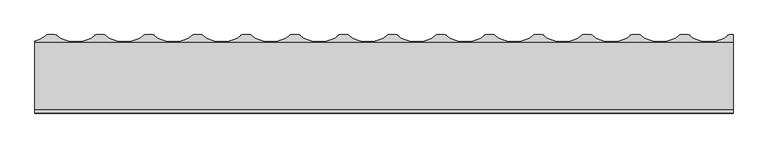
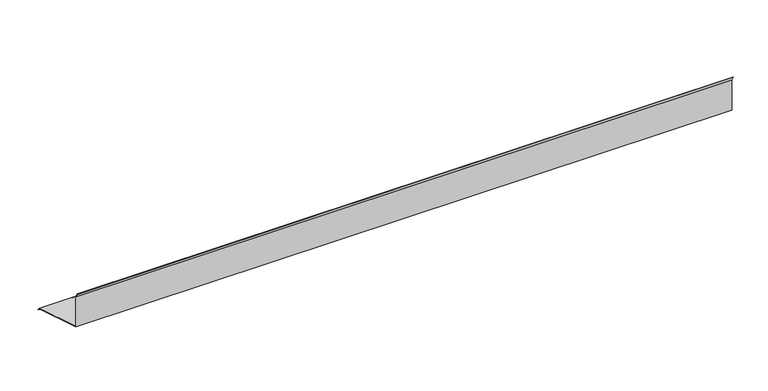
"""IFC4 building model written with IfcOpenShell, lengths in millimetres: proxy geometry, H20.F20.003-E-REMATES TEJA-Troquelado a Pared : Troquelado a Pared Teja."""

from ifc_helpers import new_model, si_unit, point, frame, origin, place, context, project, spatial, ellipse_curve, trimmed, source, transform, mapped, element, save
from ifc_brep_helpers import plane_surface, extruded_surface, advanced_brep


def generic_models_a4d5a3c6(model_context):
    return source(origin(), model_context, "Body", "AdvancedBrep", [
        advanced_brep(
        [(2500.0, 0.0, 0.0), (2500.0, 0.0, 115.0), (2500.0, -10.0, 132.3205081), (2500.0, -11.5588457, 131.4205081), (2500.0, -1.6, 114.1712813), (2500.0, -1.6, -1.1839377), (2500.0, 229.5451993, -71.852117), (2500.0, 256.3431683, -107.3544315), (2500.0, 257.6202057, -106.3904941), (2500.0, 230.5094655, -70.473816), (110.0, 230.5094655, -70.473816), (110.0, 0.0, 0.0), (2487.8721739, 257.6202057, -106.3904941), (2480.9580237, 255.2613563, -103.2654582), (2352.1819763, 255.2613563, -103.2654582), (2345.2678261, 257.6202057, -106.3904941), (2321.2121739, 257.6202057, -106.3904941), (2314.2980237, 255.2613563, -103.2654582), (2185.5219763, 255.2613563, -103.2654582), (2178.6078261, 257.6202057, -106.3904941), (2154.5521739, 257.6202057, -106.3904941), (2147.6380237, 255.2613563, -103.2654582), (2018.8619763, 255.2613563, -103.2654582), (2011.9478261, 257.6202057, -106.3904941), (1987.8921739, 257.6202057, -106.3904941), (1980.9780237, 255.2613563, -103.2654582), (1852.2019763, 255.2613563, -103.2654582), (1845.2878261, 257.6202057, -106.3904941), (1821.2321739, 257.6202057, -106.3904941), (1814.3180237, 255.2613563, -103.2654582), (1685.5419763, 255.2613563, -103.2654582), (1678.6278261, 257.6202057, -106.3904941), (1654.5721739, 257.6202057, -106.3904941), (1647.6580237, 255.2613563, -103.2654582), (1518.8819763, 255.2613563, -103.2654582), (1511.9678261, 257.6202057, -106.3904941), (1487.9121739, 257.6202057, -106.3904941), (1480.9980237, 255.2613563, -103.2654582), (1352.2219763, 255.2613563, -103.2654582), (1345.3078261, 257.6202057, -106.3904941), (1321.2521739, 257.6202057, -106.3904941), (1314.3380237, 255.2613563, -103.2654582), (1185.5619763, 255.2613563, -103.2654582), (1178.6478261, 257.6202057, -106.3904941), (1154.5921739, 257.6202057, -106.3904941), (1147.6780237, 255.2613563, -103.2654582), (1018.9019763, 255.2613563, -103.2654582), (1011.9878261, 257.6202057, -106.3904941), (987.9321739, 257.6202057, -106.3904941), (981.0180237, 255.2613563, -103.2654582), (852.2419763, 255.2613563, -103.2654582), (845.3278261, 257.6202057, -106.3904941), (821.2721739, 257.6202057, -106.3904941), (814.3580237, 255.2613563, -103.2654582), (685.5819763, 255.2613563, -103.2654582), (678.6678261, 257.6202057, -106.3904941), (654.6121739, 257.6202057, -106.3904941), (647.6980237, 255.2613563, -103.2654582), (518.9219763, 255.2613563, -103.2654582), (512.0078261, 257.6202057, -106.3904941), (487.9521739, 257.6202057, -106.3904941), (481.0380237, 255.2613563, -103.2654582), (352.2619763, 255.2613563, -103.2654582), (345.3478261, 257.6202057, -106.3904941), (321.2921739, 257.6202057, -106.3904941), (314.3780237, 255.2613563, -103.2654582), (185.6019763, 255.2613563, -103.2654582), (178.6878261, 257.6202057, -106.3904941), (154.6321739, 257.6202057, -106.3904941), (147.7180237, 255.2613563, -103.2654582), (110.0, 236.2239462, -78.0444379), (2487.8721739, 256.3431683, -107.3544315), (178.6878261, 256.3431683, -107.3544315), (154.6321739, 256.3431683, -107.3544315), (345.3478261, 256.3431683, -107.3544315), (321.2921739, 256.3431683, -107.3544315), (512.0078261, 256.3431683, -107.3544315), (487.9521739, 256.3431683, -107.3544315), (678.6678261, 256.3431683, -107.3544315), (654.6121739, 256.3431683, -107.3544315), (845.3278261, 256.3431683, -107.3544315), (821.2721739, 256.3431683, -107.3544315), (1011.9878261, 256.3431683, -107.3544315), (987.9321739, 256.3431683, -107.3544315), (1178.6478261, 256.3431683, -107.3544315), (1154.5921739, 256.3431683, -107.3544315), (1345.3078261, 256.3431683, -107.3544315), (1321.2521739, 256.3431683, -107.3544315), (1511.9678261, 256.3431683, -107.3544315), (1487.9121739, 256.3431683, -107.3544315), (1678.6278261, 256.3431683, -107.3544315), (1654.5721739, 256.3431683, -107.3544315), (1845.2878261, 256.3431683, -107.3544315), (1821.2321739, 256.3431683, -107.3544315), (2011.9478261, 256.3431683, -107.3544315), (1987.8921739, 256.3431683, -107.3544315), (2178.6078261, 256.3431683, -107.3544315), (2154.5521739, 256.3431683, -107.3544315), (2345.2678261, 256.3431683, -107.3544315), (2321.2121739, 256.3431683, -107.3544315), (110.0, 229.5451993, -71.852117), (110.0, 234.9469088, -79.0083754), (147.7180237, 253.9843188, -104.2293957), (185.6019763, 253.9843188, -104.2293957), (314.3780237, 253.9843188, -104.2293957), (352.2619763, 253.9843188, -104.2293957), (481.0380237, 253.9843188, -104.2293957), (518.9219763, 253.9843188, -104.2293957), (647.6980237, 253.9843188, -104.2293957), (685.5819763, 253.9843188, -104.2293957), (814.3580237, 253.9843188, -104.2293957), (852.2419763, 253.9843188, -104.2293957), (981.0180237, 253.9843188, -104.2293957), (1018.9019763, 253.9843188, -104.2293957), (1147.6780237, 253.9843188, -104.2293957), (1185.5619763, 253.9843188, -104.2293957), (1314.3380237, 253.9843188, -104.2293957), (1352.2219763, 253.9843188, -104.2293957), (1480.9980237, 253.9843188, -104.2293957), (1518.8819763, 253.9843188, -104.2293957), (1647.6580237, 253.9843188, -104.2293957), (1685.5419763, 253.9843188, -104.2293957), (1814.3180237, 253.9843188, -104.2293957), (1852.2019763, 253.9843188, -104.2293957), (1980.9780237, 253.9843188, -104.2293957), (2018.8619763, 253.9843188, -104.2293957), (2147.6380237, 253.9843188, -104.2293957), (2185.5219763, 253.9843188, -104.2293957), (2314.2980237, 253.9843188, -104.2293957), (2352.1819763, 253.9843188, -104.2293957), (2480.9580237, 253.9843188, -104.2293957), (110.0, -1.6, -1.1839377), (110.0, -1.6, 114.1712813), (110.0, -11.5588457, 131.4205081), (110.0, -10.0, 132.3205081), (110.0, 0.0, 115.0)],
        [
            (0, 1),
            (1, 2),
            (2, 3),
            (3, 4),
            (4, 5),
            (5, 6),
            (6, 7),
            (7, 8),
            (8, 9),
            (9, 0),
            (9, 10),
            (10, 11),
            (11, 0),
            (8, 12),
            (12, 13, ellipse_curve(frame((2487.8721739, 252.8737404, -100.1023122), z_axis=(0.0, 0.7981484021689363, 0.6024608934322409), x_axis=(1.0, 0.0, 0.0)), 8.0, 7.878462)),
            (13, 14, ellipse_curve(frame((2416.57, 277.496029, -132.7222557), z_axis=(0.0, -0.7981484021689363, -0.6024608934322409), x_axis=(1.0, 0.0, 0.0)), 74.5, 73.3681776)),
            (14, 15, ellipse_curve(frame((2345.2678261, 252.8737404, -100.1023122), z_axis=(0.0, 0.7981484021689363, 0.6024608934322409), x_axis=(1.0, 0.0, 0.0)), 8.0, 7.878462)),
            (15, 16),
            (16, 17, ellipse_curve(frame((2321.2121739, 252.8737404, -100.1023122), z_axis=(0.0, 0.7981484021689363, 0.6024608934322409), x_axis=(1.0, 0.0, 0.0)), 8.0, 7.878462)),
            (17, 18, ellipse_curve(frame((2249.91, 277.496029, -132.7222557), z_axis=(0.0, -0.7981484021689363, -0.6024608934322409), x_axis=(1.0, 0.0, 0.0)), 74.5, 73.3681776)),
            (18, 19, ellipse_curve(frame((2178.6078261, 252.8737404, -100.1023122), z_axis=(0.0, 0.7981484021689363, 0.6024608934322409), x_axis=(1.0, 0.0, 0.0)), 8.0, 7.878462)),
            (19, 20),
            (20, 21, ellipse_curve(frame((2154.5521739, 252.8737404, -100.1023122), z_axis=(0.0, 0.7981484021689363, 0.6024608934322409), x_axis=(1.0, 0.0, 0.0)), 8.0, 7.878462)),
            (21, 22, ellipse_curve(frame((2083.25, 277.496029, -132.7222557), z_axis=(0.0, -0.7981484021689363, -0.6024608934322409), x_axis=(1.0, 0.0, 0.0)), 74.5, 73.3681776)),
            (22, 23, ellipse_curve(frame((2011.9478261, 252.8737404, -100.1023122), z_axis=(0.0, 0.7981484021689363, 0.6024608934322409), x_axis=(1.0, 0.0, 0.0)), 8.0, 7.878462)),
            (23, 24),
            (24, 25, ellipse_curve(frame((1987.8921739, 252.8737404, -100.1023122), z_axis=(0.0, 0.7981484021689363, 0.6024608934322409), x_axis=(1.0, 0.0, 0.0)), 8.0, 7.878462)),
            (25, 26, ellipse_curve(frame((1916.59, 277.496029, -132.7222557), z_axis=(0.0, -0.7981484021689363, -0.6024608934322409), x_axis=(1.0, 0.0, 0.0)), 74.5, 73.3681776)),
            (26, 27, ellipse_curve(frame((1845.2878261, 252.8737404, -100.1023122), z_axis=(0.0, 0.7981484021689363, 0.6024608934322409), x_axis=(1.0, 0.0, 0.0)), 8.0, 7.878462)),
            (27, 28),
            (28, 29, ellipse_curve(frame((1821.2321739, 252.8737404, -100.1023122), z_axis=(0.0, 0.7981484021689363, 0.6024608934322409), x_axis=(1.0, 0.0, 0.0)), 8.0, 7.878462)),
            (29, 30, ellipse_curve(frame((1749.93, 277.496029, -132.7222557), z_axis=(0.0, -0.7981484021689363, -0.6024608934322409), x_axis=(1.0, 0.0, 0.0)), 74.5, 73.3681776)),
            (30, 31, ellipse_curve(frame((1678.6278261, 252.8737404, -100.1023122), z_axis=(0.0, 0.7981484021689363, 0.6024608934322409), x_axis=(1.0, 0.0, 0.0)), 8.0, 7.878462)),
            (31, 32),
            (32, 33, ellipse_curve(frame((1654.5721739, 252.8737404, -100.1023122), z_axis=(0.0, 0.7981484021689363, 0.6024608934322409), x_axis=(1.0, 0.0, 0.0)), 8.0, 7.878462)),
            (33, 34, ellipse_curve(frame((1583.27, 277.496029, -132.7222557), z_axis=(0.0, -0.7981484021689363, -0.6024608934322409), x_axis=(1.0, 0.0, 0.0)), 74.5, 73.3681776)),
            (34, 35, ellipse_curve(frame((1511.9678261, 252.8737404, -100.1023122), z_axis=(0.0, 0.7981484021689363, 0.6024608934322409), x_axis=(1.0, 0.0, 0.0)), 8.0, 7.878462)),
            (35, 36),
            (36, 37, ellipse_curve(frame((1487.9121739, 252.8737404, -100.1023122), z_axis=(0.0, 0.7981484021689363, 0.6024608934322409), x_axis=(1.0, 0.0, 0.0)), 8.0, 7.878462)),
            (37, 38, ellipse_curve(frame((1416.61, 277.496029, -132.7222557), z_axis=(0.0, -0.7981484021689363, -0.6024608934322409), x_axis=(1.0, 0.0, 0.0)), 74.5, 73.3681776)),
            (38, 39, ellipse_curve(frame((1345.3078261, 252.8737404, -100.1023122), z_axis=(0.0, 0.7981484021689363, 0.6024608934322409), x_axis=(1.0, 0.0, 0.0)), 8.0, 7.878462)),
            (39, 40),
            (40, 41, ellipse_curve(frame((1321.2521739, 252.8737404, -100.1023122), z_axis=(0.0, 0.7981484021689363, 0.6024608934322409), x_axis=(1.0, 0.0, 0.0)), 8.0, 7.878462)),
            (41, 42, ellipse_curve(frame((1249.95, 277.496029, -132.7222557), z_axis=(0.0, -0.7981484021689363, -0.6024608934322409), x_axis=(1.0, 0.0, 0.0)), 74.5, 73.3681776)),
            (42, 43, ellipse_curve(frame((1178.6478261, 252.8737404, -100.1023122), z_axis=(0.0, 0.7981484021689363, 0.6024608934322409), x_axis=(1.0, 0.0, 0.0)), 8.0, 7.878462)),
            (43, 44),
            (44, 45, ellipse_curve(frame((1154.5921739, 252.8737404, -100.1023122), z_axis=(0.0, 0.7981484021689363, 0.6024608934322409), x_axis=(1.0, 0.0, 0.0)), 8.0, 7.878462)),
            (45, 46, ellipse_curve(frame((1083.29, 277.496029, -132.7222557), z_axis=(0.0, -0.7981484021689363, -0.6024608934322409), x_axis=(1.0, 0.0, 0.0)), 74.5, 73.3681776)),
            (46, 47, ellipse_curve(frame((1011.9878261, 252.8737404, -100.1023122), z_axis=(0.0, 0.7981484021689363, 0.6024608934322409), x_axis=(1.0, 0.0, 0.0)), 8.0, 7.878462)),
            (47, 48),
            (48, 49, ellipse_curve(frame((987.9321739, 252.8737404, -100.1023122), z_axis=(0.0, 0.7981484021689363, 0.6024608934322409), x_axis=(1.0, 0.0, 0.0)), 8.0, 7.878462)),
            (49, 50, ellipse_curve(frame((916.63, 277.496029, -132.7222557), z_axis=(0.0, -0.7981484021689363, -0.6024608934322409), x_axis=(1.0, 0.0, 0.0)), 74.5, 73.3681776)),
            (50, 51, ellipse_curve(frame((845.3278261, 252.8737404, -100.1023122), z_axis=(0.0, 0.7981484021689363, 0.6024608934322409), x_axis=(1.0, 0.0, 0.0)), 8.0, 7.878462)),
            (51, 52),
            (52, 53, ellipse_curve(frame((821.2721739, 252.8737404, -100.1023122), z_axis=(0.0, 0.7981484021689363, 0.6024608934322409), x_axis=(1.0, 0.0, 0.0)), 8.0, 7.878462)),
            (53, 54, ellipse_curve(frame((749.97, 277.496029, -132.7222557), z_axis=(0.0, -0.7981484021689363, -0.6024608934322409), x_axis=(1.0, 0.0, 0.0)), 74.5, 73.3681776)),
            (54, 55, ellipse_curve(frame((678.6678261, 252.8737404, -100.1023122), z_axis=(0.0, 0.7981484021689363, 0.6024608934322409), x_axis=(1.0, 0.0, 0.0)), 8.0, 7.878462)),
            (55, 56),
            (56, 57, ellipse_curve(frame((654.6121739, 252.8737404, -100.1023122), z_axis=(0.0, 0.7981484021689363, 0.6024608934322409), x_axis=(1.0, 0.0, 0.0)), 8.0, 7.878462)),
            (57, 58, ellipse_curve(frame((583.31, 277.496029, -132.7222557), z_axis=(0.0, -0.7981484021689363, -0.6024608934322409), x_axis=(1.0, 0.0, 0.0)), 74.5, 73.3681776)),
            (58, 59, ellipse_curve(frame((512.0078261, 252.8737404, -100.1023122), z_axis=(0.0, 0.7981484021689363, 0.6024608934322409), x_axis=(1.0, 0.0, 0.0)), 8.0, 7.878462)),
            (59, 60),
            (60, 61, ellipse_curve(frame((487.9521739, 252.8737404, -100.1023122), z_axis=(0.0, 0.7981484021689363, 0.6024608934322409), x_axis=(1.0, 0.0, 0.0)), 8.0, 7.878462)),
            (61, 62, ellipse_curve(frame((416.65, 277.496029, -132.7222557), z_axis=(0.0, -0.7981484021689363, -0.6024608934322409), x_axis=(1.0, 0.0, 0.0)), 74.5, 73.3681776)),
            (62, 63, ellipse_curve(frame((345.3478261, 252.8737404, -100.1023122), z_axis=(0.0, 0.7981484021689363, 0.6024608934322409), x_axis=(1.0, 0.0, 0.0)), 8.0, 7.878462)),
            (63, 64),
            (64, 65, ellipse_curve(frame((321.2921739, 252.8737404, -100.1023122), z_axis=(0.0, 0.7981484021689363, 0.6024608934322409), x_axis=(1.0, 0.0, 0.0)), 8.0, 7.878462)),
            (65, 66, ellipse_curve(frame((249.99, 277.496029, -132.7222557), z_axis=(0.0, -0.7981484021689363, -0.6024608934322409), x_axis=(1.0, 0.0, 0.0)), 74.5, 73.3681776)),
            (66, 67, ellipse_curve(frame((178.6878261, 252.8737404, -100.1023122), z_axis=(0.0, 0.7981484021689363, 0.6024608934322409), x_axis=(1.0, 0.0, 0.0)), 8.0, 7.878462)),
            (67, 68),
            (68, 69, ellipse_curve(frame((154.6321739, 252.8737404, -100.1023122), z_axis=(0.0, 0.7981484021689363, 0.6024608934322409), x_axis=(1.0, 0.0, 0.0)), 8.0, 7.878462)),
            (69, 70, ellipse_curve(frame((83.33, 277.496029, -132.7222557), z_axis=(0.0, -0.7981484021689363, -0.6024608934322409), x_axis=(1.0, 0.0, 0.0)), 74.5, 73.3681776)),
            (70, 10),
            (7, 71),
            (71, 12),
            (67, 72),
            (72, 73),
            (73, 68),
            (63, 74),
            (74, 75),
            (75, 64),
            (59, 76),
            (76, 77),
            (77, 60),
            (55, 78),
            (78, 79),
            (79, 56),
            (51, 80),
            (80, 81),
            (81, 52),
            (47, 82),
            (82, 83),
            (83, 48),
            (43, 84),
            (84, 85),
            (85, 44),
            (39, 86),
            (86, 87),
            (87, 40),
            (35, 88),
            (88, 89),
            (89, 36),
            (31, 90),
            (90, 91),
            (91, 32),
            (27, 92),
            (92, 93),
            (93, 28),
            (23, 94),
            (94, 95),
            (95, 24),
            (19, 96),
            (96, 97),
            (97, 20),
            (15, 98),
            (98, 99),
            (99, 16),
            (6, 100),
            (100, 101),
            (101, 102, ellipse_curve(frame((83.33, 276.2189916, -133.6861931), z_axis=(0.0, 0.7981484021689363, 0.6024608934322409), x_axis=(1.0, 0.0, 0.0)), 74.5, 73.3681776)),
            (102, 73, ellipse_curve(frame((154.6321739, 251.596703, -101.0662496), z_axis=(0.0, -0.7981484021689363, -0.6024608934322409), x_axis=(1.0, 0.0, 0.0)), 8.0, 7.878462)),
            (72, 103, ellipse_curve(frame((178.6878261, 251.596703, -101.0662496), z_axis=(0.0, -0.7981484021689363, -0.6024608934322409), x_axis=(1.0, 0.0, 0.0)), 8.0, 7.878462)),
            (103, 104, ellipse_curve(frame((249.99, 276.2189916, -133.6861931), z_axis=(0.0, 0.7981484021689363, 0.6024608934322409), x_axis=(1.0, 0.0, 0.0)), 74.5, 73.3681776)),
            (104, 75, ellipse_curve(frame((321.2921739, 251.596703, -101.0662496), z_axis=(0.0, -0.7981484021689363, -0.6024608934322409), x_axis=(1.0, 0.0, 0.0)), 8.0, 7.878462)),
            (74, 105, ellipse_curve(frame((345.3478261, 251.596703, -101.0662496), z_axis=(0.0, -0.7981484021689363, -0.6024608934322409), x_axis=(1.0, 0.0, 0.0)), 8.0, 7.878462)),
            (105, 106, ellipse_curve(frame((416.65, 276.2189916, -133.6861931), z_axis=(0.0, 0.7981484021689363, 0.6024608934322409), x_axis=(1.0, 0.0, 0.0)), 74.5, 73.3681776)),
            (106, 77, ellipse_curve(frame((487.9521739, 251.596703, -101.0662496), z_axis=(0.0, -0.7981484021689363, -0.6024608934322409), x_axis=(1.0, 0.0, 0.0)), 8.0, 7.878462)),
            (76, 107, ellipse_curve(frame((512.0078261, 251.596703, -101.0662496), z_axis=(0.0, -0.7981484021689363, -0.6024608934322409), x_axis=(1.0, 0.0, 0.0)), 8.0, 7.878462)),
            (107, 108, ellipse_curve(frame((583.31, 276.2189916, -133.6861931), z_axis=(0.0, 0.7981484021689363, 0.6024608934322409), x_axis=(1.0, 0.0, 0.0)), 74.5, 73.3681776)),
            (108, 79, ellipse_curve(frame((654.6121739, 251.596703, -101.0662496), z_axis=(0.0, -0.7981484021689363, -0.6024608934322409), x_axis=(1.0, 0.0, 0.0)), 8.0, 7.878462)),
            (78, 109, ellipse_curve(frame((678.6678261, 251.596703, -101.0662496), z_axis=(0.0, -0.7981484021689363, -0.6024608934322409), x_axis=(1.0, 0.0, 0.0)), 8.0, 7.878462)),
            (109, 110, ellipse_curve(frame((749.97, 276.2189916, -133.6861931), z_axis=(0.0, 0.7981484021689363, 0.6024608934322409), x_axis=(1.0, 0.0, 0.0)), 74.5, 73.3681776)),
            (110, 81, ellipse_curve(frame((821.2721739, 251.596703, -101.0662496), z_axis=(0.0, -0.7981484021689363, -0.6024608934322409), x_axis=(1.0, 0.0, 0.0)), 8.0, 7.878462)),
            (80, 111, ellipse_curve(frame((845.3278261, 251.596703, -101.0662496), z_axis=(0.0, -0.7981484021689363, -0.6024608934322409), x_axis=(1.0, 0.0, 0.0)), 8.0, 7.878462)),
            (111, 112, ellipse_curve(frame((916.63, 276.2189916, -133.6861931), z_axis=(0.0, 0.7981484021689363, 0.6024608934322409), x_axis=(1.0, 0.0, 0.0)), 74.5, 73.3681776)),
            (112, 83, ellipse_curve(frame((987.9321739, 251.596703, -101.0662496), z_axis=(0.0, -0.7981484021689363, -0.6024608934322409), x_axis=(1.0, 0.0, 0.0)), 8.0, 7.878462)),
            (82, 113, ellipse_curve(frame((1011.9878261, 251.596703, -101.0662496), z_axis=(0.0, -0.7981484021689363, -0.6024608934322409), x_axis=(1.0, 0.0, 0.0)), 8.0, 7.878462)),
            (113, 114, ellipse_curve(frame((1083.29, 276.2189916, -133.6861931), z_axis=(0.0, 0.7981484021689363, 0.6024608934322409), x_axis=(1.0, 0.0, 0.0)), 74.5, 73.3681776)),
            (114, 85, ellipse_curve(frame((1154.5921739, 251.596703, -101.0662496), z_axis=(0.0, -0.7981484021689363, -0.6024608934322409), x_axis=(1.0, 0.0, 0.0)), 8.0, 7.878462)),
            (84, 115, ellipse_curve(frame((1178.6478261, 251.596703, -101.0662496), z_axis=(0.0, -0.7981484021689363, -0.6024608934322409), x_axis=(1.0, 0.0, 0.0)), 8.0, 7.878462)),
            (115, 116, ellipse_curve(frame((1249.95, 276.2189916, -133.6861931), z_axis=(0.0, 0.7981484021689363, 0.6024608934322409), x_axis=(1.0, 0.0, 0.0)), 74.5, 73.3681776)),
            (116, 87, ellipse_curve(frame((1321.2521739, 251.596703, -101.0662496), z_axis=(0.0, -0.7981484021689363, -0.6024608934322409), x_axis=(1.0, 0.0, 0.0)), 8.0, 7.878462)),
            (86, 117, ellipse_curve(frame((1345.3078261, 251.596703, -101.0662496), z_axis=(0.0, -0.7981484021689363, -0.6024608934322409), x_axis=(1.0, 0.0, 0.0)), 8.0, 7.878462)),
            (117, 118, ellipse_curve(frame((1416.61, 276.2189916, -133.6861931), z_axis=(0.0, 0.7981484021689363, 0.6024608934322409), x_axis=(1.0, 0.0, 0.0)), 74.5, 73.3681776)),
            (118, 89, ellipse_curve(frame((1487.9121739, 251.596703, -101.0662496), z_axis=(0.0, -0.7981484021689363, -0.6024608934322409), x_axis=(1.0, 0.0, 0.0)), 8.0, 7.878462)),
            (88, 119, ellipse_curve(frame((1511.9678261, 251.596703, -101.0662496), z_axis=(0.0, -0.7981484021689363, -0.6024608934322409), x_axis=(1.0, 0.0, 0.0)), 8.0, 7.878462)),
            (119, 120, ellipse_curve(frame((1583.27, 276.2189916, -133.6861931), z_axis=(0.0, 0.7981484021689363, 0.6024608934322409), x_axis=(1.0, 0.0, 0.0)), 74.5, 73.3681776)),
            (120, 91, ellipse_curve(frame((1654.5721739, 251.596703, -101.0662496), z_axis=(0.0, -0.7981484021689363, -0.6024608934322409), x_axis=(1.0, 0.0, 0.0)), 8.0, 7.878462)),
            (90, 121, ellipse_curve(frame((1678.6278261, 251.596703, -101.0662496), z_axis=(0.0, -0.7981484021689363, -0.6024608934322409), x_axis=(1.0, 0.0, 0.0)), 8.0, 7.878462)),
            (121, 122, ellipse_curve(frame((1749.93, 276.2189916, -133.6861931), z_axis=(0.0, 0.7981484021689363, 0.6024608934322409), x_axis=(1.0, 0.0, 0.0)), 74.5, 73.3681776)),
            (122, 93, ellipse_curve(frame((1821.2321739, 251.596703, -101.0662496), z_axis=(0.0, -0.7981484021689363, -0.6024608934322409), x_axis=(1.0, 0.0, 0.0)), 8.0, 7.878462)),
            (92, 123, ellipse_curve(frame((1845.2878261, 251.596703, -101.0662496), z_axis=(0.0, -0.7981484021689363, -0.6024608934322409), x_axis=(1.0, 0.0, 0.0)), 8.0, 7.878462)),
            (123, 124, ellipse_curve(frame((1916.59, 276.2189916, -133.6861931), z_axis=(0.0, 0.7981484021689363, 0.6024608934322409), x_axis=(1.0, 0.0, 0.0)), 74.5, 73.3681776)),
            (124, 95, ellipse_curve(frame((1987.8921739, 251.596703, -101.0662496), z_axis=(0.0, -0.7981484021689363, -0.6024608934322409), x_axis=(1.0, 0.0, 0.0)), 8.0, 7.878462)),
            (94, 125, ellipse_curve(frame((2011.9478261, 251.596703, -101.0662496), z_axis=(0.0, -0.7981484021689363, -0.6024608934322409), x_axis=(1.0, 0.0, 0.0)), 8.0, 7.878462)),
            (125, 126, ellipse_curve(frame((2083.25, 276.2189916, -133.6861931), z_axis=(0.0, 0.7981484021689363, 0.6024608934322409), x_axis=(1.0, 0.0, 0.0)), 74.5, 73.3681776)),
            (126, 97, ellipse_curve(frame((2154.5521739, 251.596703, -101.0662496), z_axis=(0.0, -0.7981484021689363, -0.6024608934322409), x_axis=(1.0, 0.0, 0.0)), 8.0, 7.878462)),
            (96, 127, ellipse_curve(frame((2178.6078261, 251.596703, -101.0662496), z_axis=(0.0, -0.7981484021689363, -0.6024608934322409), x_axis=(1.0, 0.0, 0.0)), 8.0, 7.878462)),
            (127, 128, ellipse_curve(frame((2249.91, 276.2189916, -133.6861931), z_axis=(0.0, 0.7981484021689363, 0.6024608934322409), x_axis=(1.0, 0.0, 0.0)), 74.5, 73.3681776)),
            (128, 99, ellipse_curve(frame((2321.2121739, 251.596703, -101.0662496), z_axis=(0.0, -0.7981484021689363, -0.6024608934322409), x_axis=(1.0, 0.0, 0.0)), 8.0, 7.878462)),
            (98, 129, ellipse_curve(frame((2345.2678261, 251.596703, -101.0662496), z_axis=(0.0, -0.7981484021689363, -0.6024608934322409), x_axis=(1.0, 0.0, 0.0)), 8.0, 7.878462)),
            (129, 130, ellipse_curve(frame((2416.57, 276.2189916, -133.6861931), z_axis=(0.0, 0.7981484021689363, 0.6024608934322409), x_axis=(1.0, 0.0, 0.0)), 74.5, 73.3681776)),
            (130, 71, ellipse_curve(frame((2487.8721739, 251.596703, -101.0662496), z_axis=(0.0, -0.7981484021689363, -0.6024608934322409), x_axis=(1.0, 0.0, 0.0)), 8.0, 7.878462)),
            (101, 70),
            (69, 102),
            (66, 103),
            (65, 104),
            (62, 105),
            (61, 106),
            (58, 107),
            (57, 108),
            (54, 109),
            (53, 110),
            (50, 111),
            (49, 112),
            (46, 113),
            (45, 114),
            (42, 115),
            (41, 116),
            (38, 117),
            (37, 118),
            (34, 119),
            (33, 120),
            (30, 121),
            (29, 122),
            (26, 123),
            (25, 124),
            (22, 125),
            (21, 126),
            (18, 127),
            (17, 128),
            (14, 129),
            (13, 130),
            (5, 131),
            (131, 100),
            (4, 132),
            (132, 131),
            (3, 133),
            (133, 132),
            (2, 134),
            (134, 133),
            (1, 135),
            (135, 134),
            (11, 135),
        ],
        [
            plane_surface(frame((2500.0, 0.0, 0.0), z_axis=(1.0, 0.0, 0.0), x_axis=(0.0, 0.0, 1.0))),
            plane_surface(frame((2500.0, 0.0, 0.0), z_axis=(0.0, 0.2923717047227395, 0.9563047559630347), x_axis=(-1.0, 0.0, 0.0))),
            plane_surface(frame((2500.0, 230.5094655, -70.473816), z_axis=(0.0, 0.7981484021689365, 0.6024608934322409), x_axis=(-1.0, 0.0, 0.0))),
            plane_surface(frame((2500.0, 257.6202057, -106.3904941), z_axis=(0.0, 0.6024608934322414, -0.798148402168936), x_axis=(-1.0, 0.0, 0.0))),
            plane_surface(frame((2500.0, 256.3431683, -107.3544315), z_axis=(0.0, -0.7981484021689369, -0.6024608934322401), x_axis=(-1.0, 0.0, 0.0))),
            extruded_surface(trimmed(ellipse_curve(frame((83.33, 279.0923258, -131.5173339), z_axis=(0.0, 0.7981484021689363, 0.6024608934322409), x_axis=(1.0, 0.0, 0.0)), 74.5, 73.3681776), [point((18.9419763, 256.8576531, -102.0605364))], [point((147.7180237, 256.8576531, -102.0605364))], True, "CARTESIAN"), (0.0, -1.5962968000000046, -1.204921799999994), 2.00000000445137),
            extruded_surface(trimmed(ellipse_curve(frame((154.6321739, 254.4700372, -98.8973904), z_axis=(0.0, -0.7981484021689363, -0.6024608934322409), x_axis=(1.0, 0.0, 0.0)), 8.0, 7.878462), [point((147.7180237, 256.8576531, -102.0605364))], [point((154.6321739, 259.2165025, -105.1855723))], True, "CARTESIAN"), (0.0, -1.5962968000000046, -1.204921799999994), 2.00000000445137),
            extruded_surface(trimmed(ellipse_curve(frame((178.6878261, 254.4700372, -98.8973904), z_axis=(0.0, -0.7981484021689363, -0.6024608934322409), x_axis=(1.0, 0.0, 0.0)), 8.0, 7.878462), [point((178.6878261, 259.2165025, -105.1855723))], [point((185.6019763, 256.8576531, -102.0605364))], True, "CARTESIAN"), (0.0, -1.5962968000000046, -1.204921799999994), 2.00000000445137),
            extruded_surface(trimmed(ellipse_curve(frame((249.99, 279.0923258, -131.5173339), z_axis=(0.0, 0.7981484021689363, 0.6024608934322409), x_axis=(1.0, 0.0, 0.0)), 74.5, 73.3681776), [point((185.6019763, 256.8576531, -102.0605364))], [point((314.3780237, 256.8576531, -102.0605364))], True, "CARTESIAN"), (0.0, -1.5962968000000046, -1.204921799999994), 2.00000000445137),
            extruded_surface(trimmed(ellipse_curve(frame((321.2921739, 254.4700372, -98.8973904), z_axis=(0.0, -0.7981484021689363, -0.6024608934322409), x_axis=(1.0, 0.0, 0.0)), 8.0, 7.878462), [point((314.3780237, 256.8576531, -102.0605364))], [point((321.2921739, 259.2165025, -105.1855723))], True, "CARTESIAN"), (0.0, -1.5962968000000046, -1.204921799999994), 2.00000000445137),
            extruded_surface(trimmed(ellipse_curve(frame((345.3478261, 254.4700372, -98.8973904), z_axis=(0.0, -0.7981484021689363, -0.6024608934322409), x_axis=(1.0, 0.0, 0.0)), 8.0, 7.878462), [point((345.3478261, 259.2165025, -105.1855723))], [point((352.2619763, 256.8576531, -102.0605364))], True, "CARTESIAN"), (0.0, -1.5962968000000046, -1.204921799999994), 2.00000000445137),
            extruded_surface(trimmed(ellipse_curve(frame((416.65, 279.0923258, -131.5173339), z_axis=(0.0, 0.7981484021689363, 0.6024608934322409), x_axis=(1.0, 0.0, 0.0)), 74.5, 73.3681776), [point((352.2619763, 256.8576531, -102.0605364))], [point((481.0380237, 256.8576531, -102.0605364))], True, "CARTESIAN"), (0.0, -1.5962968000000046, -1.204921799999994), 2.00000000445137),
            extruded_surface(trimmed(ellipse_curve(frame((487.9521739, 254.4700372, -98.8973904), z_axis=(0.0, -0.7981484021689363, -0.6024608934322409), x_axis=(1.0, 0.0, 0.0)), 8.0, 7.878462), [point((481.0380237, 256.8576531, -102.0605364))], [point((487.9521739, 259.2165025, -105.1855723))], True, "CARTESIAN"), (0.0, -1.5962968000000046, -1.204921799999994), 2.00000000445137),
            extruded_surface(trimmed(ellipse_curve(frame((512.0078261, 254.4700372, -98.8973904), z_axis=(0.0, -0.7981484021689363, -0.6024608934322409), x_axis=(1.0, 0.0, 0.0)), 8.0, 7.878462), [point((512.0078261, 259.2165025, -105.1855723))], [point((518.9219763, 256.8576531, -102.0605364))], True, "CARTESIAN"), (0.0, -1.5962968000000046, -1.204921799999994), 2.00000000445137),
            extruded_surface(trimmed(ellipse_curve(frame((583.31, 279.0923258, -131.5173339), z_axis=(0.0, 0.7981484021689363, 0.6024608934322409), x_axis=(1.0, 0.0, 0.0)), 74.5, 73.3681776), [point((518.9219763, 256.8576531, -102.0605364))], [point((647.6980237, 256.8576531, -102.0605364))], True, "CARTESIAN"), (0.0, -1.5962968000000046, -1.204921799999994), 2.00000000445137),
            extruded_surface(trimmed(ellipse_curve(frame((654.6121739, 254.4700372, -98.8973904), z_axis=(0.0, -0.7981484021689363, -0.6024608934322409), x_axis=(1.0, 0.0, 0.0)), 8.0, 7.878462), [point((647.6980237, 256.8576531, -102.0605364))], [point((654.6121739, 259.2165025, -105.1855723))], True, "CARTESIAN"), (0.0, -1.5962968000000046, -1.204921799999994), 2.00000000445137),
            extruded_surface(trimmed(ellipse_curve(frame((678.6678261, 254.4700372, -98.8973904), z_axis=(0.0, -0.7981484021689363, -0.6024608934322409), x_axis=(1.0, 0.0, 0.0)), 8.0, 7.878462), [point((678.6678261, 259.2165025, -105.1855723))], [point((685.5819763, 256.8576531, -102.0605364))], True, "CARTESIAN"), (0.0, -1.5962968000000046, -1.204921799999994), 2.00000000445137),
            extruded_surface(trimmed(ellipse_curve(frame((749.97, 279.0923258, -131.5173339), z_axis=(0.0, 0.7981484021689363, 0.6024608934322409), x_axis=(1.0, 0.0, 0.0)), 74.5, 73.3681776), [point((685.5819763, 256.8576531, -102.0605364))], [point((814.3580237, 256.8576531, -102.0605364))], True, "CARTESIAN"), (0.0, -1.5962968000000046, -1.204921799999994), 2.00000000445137),
            extruded_surface(trimmed(ellipse_curve(frame((821.2721739, 254.4700372, -98.8973904), z_axis=(0.0, -0.7981484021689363, -0.6024608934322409), x_axis=(1.0, 0.0, 0.0)), 8.0, 7.878462), [point((814.3580237, 256.8576531, -102.0605364))], [point((821.2721739, 259.2165025, -105.1855723))], True, "CARTESIAN"), (0.0, -1.5962968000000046, -1.204921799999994), 2.00000000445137),
            extruded_surface(trimmed(ellipse_curve(frame((845.3278261, 254.4700372, -98.8973904), z_axis=(0.0, -0.7981484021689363, -0.6024608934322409), x_axis=(1.0, 0.0, 0.0)), 8.0, 7.878462), [point((845.3278261, 259.2165025, -105.1855723))], [point((852.2419763, 256.8576531, -102.0605364))], True, "CARTESIAN"), (0.0, -1.5962968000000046, -1.204921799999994), 2.00000000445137),
            extruded_surface(trimmed(ellipse_curve(frame((916.63, 279.0923258, -131.5173339), z_axis=(0.0, 0.7981484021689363, 0.6024608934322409), x_axis=(1.0, 0.0, 0.0)), 74.5, 73.3681776), [point((852.2419763, 256.8576531, -102.0605364))], [point((981.0180237, 256.8576531, -102.0605364))], True, "CARTESIAN"), (0.0, -1.5962968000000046, -1.204921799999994), 2.00000000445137),
            extruded_surface(trimmed(ellipse_curve(frame((987.9321739, 254.4700372, -98.8973904), z_axis=(0.0, -0.7981484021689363, -0.6024608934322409), x_axis=(1.0, 0.0, 0.0)), 8.0, 7.878462), [point((981.0180237, 256.8576531, -102.0605364))], [point((987.9321739, 259.2165025, -105.1855723))], True, "CARTESIAN"), (0.0, -1.5962968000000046, -1.204921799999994), 2.00000000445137),
            extruded_surface(trimmed(ellipse_curve(frame((1011.9878261, 254.4700372, -98.8973904), z_axis=(0.0, -0.7981484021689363, -0.6024608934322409), x_axis=(1.0, 0.0, 0.0)), 8.0, 7.878462), [point((1011.9878261, 259.2165025, -105.1855723))], [point((1018.9019763, 256.8576531, -102.0605364))], True, "CARTESIAN"), (0.0, -1.5962968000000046, -1.204921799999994), 2.00000000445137),
            extruded_surface(trimmed(ellipse_curve(frame((1083.29, 279.0923258, -131.5173339), z_axis=(0.0, 0.7981484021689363, 0.6024608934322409), x_axis=(1.0, 0.0, 0.0)), 74.5, 73.3681776), [point((1018.9019763, 256.8576531, -102.0605364))], [point((1147.6780237, 256.8576531, -102.0605364))], True, "CARTESIAN"), (0.0, -1.5962968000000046, -1.204921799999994), 2.00000000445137),
            extruded_surface(trimmed(ellipse_curve(frame((1154.5921739, 254.4700372, -98.8973904), z_axis=(0.0, -0.7981484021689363, -0.6024608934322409), x_axis=(1.0, 0.0, 0.0)), 8.0, 7.878462), [point((1147.6780237, 256.8576531, -102.0605364))], [point((1154.5921739, 259.2165025, -105.1855723))], True, "CARTESIAN"), (0.0, -1.5962968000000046, -1.204921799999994), 2.00000000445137),
            extruded_surface(trimmed(ellipse_curve(frame((1178.6478261, 254.4700372, -98.8973904), z_axis=(0.0, -0.7981484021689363, -0.6024608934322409), x_axis=(1.0, 0.0, 0.0)), 8.0, 7.878462), [point((1178.6478261, 259.2165025, -105.1855723))], [point((1185.5619763, 256.8576531, -102.0605364))], True, "CARTESIAN"), (0.0, -1.5962968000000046, -1.204921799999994), 2.00000000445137),
            extruded_surface(trimmed(ellipse_curve(frame((1249.95, 279.0923258, -131.5173339), z_axis=(0.0, 0.7981484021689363, 0.6024608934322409), x_axis=(1.0, 0.0, 0.0)), 74.5, 73.3681776), [point((1185.5619763, 256.8576531, -102.0605364))], [point((1314.3380237, 256.8576531, -102.0605364))], True, "CARTESIAN"), (0.0, -1.5962968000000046, -1.204921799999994), 2.00000000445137),
            extruded_surface(trimmed(ellipse_curve(frame((1321.2521739, 254.4700372, -98.8973904), z_axis=(0.0, -0.7981484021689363, -0.6024608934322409), x_axis=(1.0, 0.0, 0.0)), 8.0, 7.878462), [point((1314.3380237, 256.8576531, -102.0605364))], [point((1321.2521739, 259.2165025, -105.1855723))], True, "CARTESIAN"), (0.0, -1.5962968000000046, -1.204921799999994), 2.00000000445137),
            extruded_surface(trimmed(ellipse_curve(frame((1345.3078261, 254.4700372, -98.8973904), z_axis=(0.0, -0.7981484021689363, -0.6024608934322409), x_axis=(1.0, 0.0, 0.0)), 8.0, 7.878462), [point((1345.3078261, 259.2165025, -105.1855723))], [point((1352.2219763, 256.8576531, -102.0605364))], True, "CARTESIAN"), (0.0, -1.5962968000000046, -1.204921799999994), 2.00000000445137),
            extruded_surface(trimmed(ellipse_curve(frame((1416.61, 279.0923258, -131.5173339), z_axis=(0.0, 0.7981484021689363, 0.6024608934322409), x_axis=(1.0, 0.0, 0.0)), 74.5, 73.3681776), [point((1352.2219763, 256.8576531, -102.0605364))], [point((1480.9980237, 256.8576531, -102.0605364))], True, "CARTESIAN"), (0.0, -1.5962968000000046, -1.204921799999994), 2.00000000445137),
            extruded_surface(trimmed(ellipse_curve(frame((1487.9121739, 254.4700372, -98.8973904), z_axis=(0.0, -0.7981484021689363, -0.6024608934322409), x_axis=(1.0, 0.0, 0.0)), 8.0, 7.878462), [point((1480.9980237, 256.8576531, -102.0605364))], [point((1487.9121739, 259.2165025, -105.1855723))], True, "CARTESIAN"), (0.0, -1.5962968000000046, -1.204921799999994), 2.00000000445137),
            extruded_surface(trimmed(ellipse_curve(frame((1511.9678261, 254.4700372, -98.8973904), z_axis=(0.0, -0.7981484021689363, -0.6024608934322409), x_axis=(1.0, 0.0, 0.0)), 8.0, 7.878462), [point((1511.9678261, 259.2165025, -105.1855723))], [point((1518.8819763, 256.8576531, -102.0605364))], True, "CARTESIAN"), (0.0, -1.5962968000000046, -1.204921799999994), 2.00000000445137),
            extruded_surface(trimmed(ellipse_curve(frame((1583.27, 279.0923258, -131.5173339), z_axis=(0.0, 0.7981484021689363, 0.6024608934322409), x_axis=(1.0, 0.0, 0.0)), 74.5, 73.3681776), [point((1518.8819763, 256.8576531, -102.0605364))], [point((1647.6580237, 256.8576531, -102.0605364))], True, "CARTESIAN"), (0.0, -1.5962968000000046, -1.204921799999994), 2.00000000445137),
            extruded_surface(trimmed(ellipse_curve(frame((1654.5721739, 254.4700372, -98.8973904), z_axis=(0.0, -0.7981484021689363, -0.6024608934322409), x_axis=(1.0, 0.0, 0.0)), 8.0, 7.878462), [point((1647.6580237, 256.8576531, -102.0605364))], [point((1654.5721739, 259.2165025, -105.1855723))], True, "CARTESIAN"), (0.0, -1.5962968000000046, -1.204921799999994), 2.00000000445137),
            extruded_surface(trimmed(ellipse_curve(frame((1678.6278261, 254.4700372, -98.8973904), z_axis=(0.0, -0.7981484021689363, -0.6024608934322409), x_axis=(1.0, 0.0, 0.0)), 8.0, 7.878462), [point((1678.6278261, 259.2165025, -105.1855723))], [point((1685.5419763, 256.8576531, -102.0605364))], True, "CARTESIAN"), (0.0, -1.5962968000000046, -1.204921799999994), 2.00000000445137),
            extruded_surface(trimmed(ellipse_curve(frame((1749.93, 279.0923258, -131.5173339), z_axis=(0.0, 0.7981484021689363, 0.6024608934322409), x_axis=(1.0, 0.0, 0.0)), 74.5, 73.3681776), [point((1685.5419763, 256.8576531, -102.0605364))], [point((1814.3180237, 256.8576531, -102.0605364))], True, "CARTESIAN"), (0.0, -1.5962968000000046, -1.204921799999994), 2.00000000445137),
            extruded_surface(trimmed(ellipse_curve(frame((1821.2321739, 254.4700372, -98.8973904), z_axis=(0.0, -0.7981484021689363, -0.6024608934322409), x_axis=(1.0, 0.0, 0.0)), 8.0, 7.878462), [point((1814.3180237, 256.8576531, -102.0605364))], [point((1821.2321739, 259.2165025, -105.1855723))], True, "CARTESIAN"), (0.0, -1.5962968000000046, -1.204921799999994), 2.00000000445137),
            extruded_surface(trimmed(ellipse_curve(frame((1845.2878261, 254.4700372, -98.8973904), z_axis=(0.0, -0.7981484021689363, -0.6024608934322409), x_axis=(1.0, 0.0, 0.0)), 8.0, 7.878462), [point((1845.2878261, 259.2165025, -105.1855723))], [point((1852.2019763, 256.8576531, -102.0605364))], True, "CARTESIAN"), (0.0, -1.5962968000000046, -1.204921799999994), 2.00000000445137),
            extruded_surface(trimmed(ellipse_curve(frame((1916.59, 279.0923258, -131.5173339), z_axis=(0.0, 0.7981484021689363, 0.6024608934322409), x_axis=(1.0, 0.0, 0.0)), 74.5, 73.3681776), [point((1852.2019763, 256.8576531, -102.0605364))], [point((1980.9780237, 256.8576531, -102.0605364))], True, "CARTESIAN"), (0.0, -1.5962968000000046, -1.204921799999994), 2.00000000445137),
            extruded_surface(trimmed(ellipse_curve(frame((1987.8921739, 254.4700372, -98.8973904), z_axis=(0.0, -0.7981484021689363, -0.6024608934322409), x_axis=(1.0, 0.0, 0.0)), 8.0, 7.878462), [point((1980.9780237, 256.8576531, -102.0605364))], [point((1987.8921739, 259.2165025, -105.1855723))], True, "CARTESIAN"), (0.0, -1.5962968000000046, -1.204921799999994), 2.00000000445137),
            extruded_surface(trimmed(ellipse_curve(frame((2011.9478261, 254.4700372, -98.8973904), z_axis=(0.0, -0.7981484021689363, -0.6024608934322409), x_axis=(1.0, 0.0, 0.0)), 8.0, 7.878462), [point((2011.9478261, 259.2165025, -105.1855723))], [point((2018.8619763, 256.8576531, -102.0605364))], True, "CARTESIAN"), (0.0, -1.5962968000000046, -1.204921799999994), 2.00000000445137),
            extruded_surface(trimmed(ellipse_curve(frame((2083.25, 279.0923258, -131.5173339), z_axis=(0.0, 0.7981484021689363, 0.6024608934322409), x_axis=(1.0, 0.0, 0.0)), 74.5, 73.3681776), [point((2018.8619763, 256.8576531, -102.0605364))], [point((2147.6380237, 256.8576531, -102.0605364))], True, "CARTESIAN"), (0.0, -1.5962968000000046, -1.204921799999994), 2.00000000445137),
            extruded_surface(trimmed(ellipse_curve(frame((2154.5521739, 254.4700372, -98.8973904), z_axis=(0.0, -0.7981484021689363, -0.6024608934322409), x_axis=(1.0, 0.0, 0.0)), 8.0, 7.878462), [point((2147.6380237, 256.8576531, -102.0605364))], [point((2154.5521739, 259.2165025, -105.1855723))], True, "CARTESIAN"), (0.0, -1.5962968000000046, -1.204921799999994), 2.00000000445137),
            extruded_surface(trimmed(ellipse_curve(frame((2178.6078261, 254.4700372, -98.8973904), z_axis=(0.0, -0.7981484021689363, -0.6024608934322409), x_axis=(1.0, 0.0, 0.0)), 8.0, 7.878462), [point((2178.6078261, 259.2165025, -105.1855723))], [point((2185.5219763, 256.8576531, -102.0605364))], True, "CARTESIAN"), (0.0, -1.5962968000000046, -1.204921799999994), 2.00000000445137),
            extruded_surface(trimmed(ellipse_curve(frame((2249.91, 279.0923258, -131.5173339), z_axis=(0.0, 0.7981484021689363, 0.6024608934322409), x_axis=(1.0, 0.0, 0.0)), 74.5, 73.3681776), [point((2185.5219763, 256.8576531, -102.0605364))], [point((2314.2980237, 256.8576531, -102.0605364))], True, "CARTESIAN"), (0.0, -1.5962968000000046, -1.204921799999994), 2.00000000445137),
            extruded_surface(trimmed(ellipse_curve(frame((2321.2121739, 254.4700372, -98.8973904), z_axis=(0.0, -0.7981484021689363, -0.6024608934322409), x_axis=(1.0, 0.0, 0.0)), 8.0, 7.878462), [point((2314.2980237, 256.8576531, -102.0605364))], [point((2321.2121739, 259.2165025, -105.1855723))], True, "CARTESIAN"), (0.0, -1.5962968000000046, -1.204921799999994), 2.00000000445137),
            extruded_surface(trimmed(ellipse_curve(frame((2345.2678261, 254.4700372, -98.8973904), z_axis=(0.0, -0.7981484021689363, -0.6024608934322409), x_axis=(1.0, 0.0, 0.0)), 8.0, 7.878462), [point((2345.2678261, 259.2165025, -105.1855723))], [point((2352.1819763, 256.8576531, -102.0605364))], True, "CARTESIAN"), (0.0, -1.5962968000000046, -1.204921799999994), 2.00000000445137),
            extruded_surface(trimmed(ellipse_curve(frame((2416.57, 279.0923258, -131.5173339), z_axis=(0.0, 0.7981484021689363, 0.6024608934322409), x_axis=(1.0, 0.0, 0.0)), 74.5, 73.3681776), [point((2352.1819763, 256.8576531, -102.0605364))], [point((2480.9580237, 256.8576531, -102.0605364))], True, "CARTESIAN"), (0.0, -1.5962968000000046, -1.204921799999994), 2.00000000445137),
            extruded_surface(trimmed(ellipse_curve(frame((2487.8721739, 254.4700372, -98.8973904), z_axis=(0.0, -0.7981484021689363, -0.6024608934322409), x_axis=(1.0, 0.0, 0.0)), 8.0, 7.878462), [point((2480.9580237, 256.8576531, -102.0605364))], [point((2487.8721739, 259.2165025, -105.1855723))], True, "CARTESIAN"), (0.0, -1.5962968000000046, -1.204921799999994), 2.00000000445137),
            plane_surface(frame((2500.0, 229.5451993, -71.852117), z_axis=(0.0, -0.2923717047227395, -0.9563047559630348), x_axis=(-1.0, 0.0, 0.0))),
            plane_surface(frame((2500.0, -1.6, -1.1839377), z_axis=(0.0, -1.0, 0.0), x_axis=(-1.0, 0.0, 0.0))),
            plane_surface(frame((2500.0, -1.6, 114.1712813), z_axis=(0.0, -0.866025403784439, -0.49999999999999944), x_axis=(-1.0, 0.0, 0.0))),
            plane_surface(frame((2500.0, -11.5588457, 131.4205081), z_axis=(0.0, -0.4999999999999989, 0.8660254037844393), x_axis=(-1.0, 0.0, 0.0))),
            plane_surface(frame((2500.0, -10.0, 132.3205081), z_axis=(0.0, 0.8660254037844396, 0.4999999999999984), x_axis=(-1.0, 0.0, 0.0))),
            plane_surface(frame((2500.0, 0.0, 115.0), z_axis=(0.0, 1.0, 0.0), x_axis=(-1.0, 0.0, 0.0))),
            plane_surface(frame((110.0, 379.1513497, 250.0), z_axis=(-1.0, 0.0, 0.0), x_axis=(0.0, 0.0, -1.0))),
        ],
        [
            (0, [[1, 2, 3, 4, 5, 6, 7, 8, 9, 10]]),
            (1, [[11, 12, 13, -10]]),
            (2, [[14, 15, 16, 17, 18, 19, 20, 21, 22, 23, 24, 25, 26, 27, 28, 29, 30, 31, 32, 33, 34, 35, 36, 37, 38, 39, 40, 41, 42, 43, 44, 45, 46, 47, 48, 49, 50, 51, 52, 53, 54, 55, 56, 57, 58, 59, 60, 61, 62, 63, 64, 65, 66, 67, 68, 69, 70, 71, 72, 73, -11, -9]]),
            (3, [[74, 75, -14, -8]]),
            (3, [[76, 77, 78, -70]]),
            (3, [[79, 80, 81, -66]]),
            (3, [[82, 83, 84, -62]]),
            (3, [[85, 86, 87, -58]]),
            (3, [[88, 89, 90, -54]]),
            (3, [[91, 92, 93, -50]]),
            (3, [[94, 95, 96, -46]]),
            (3, [[97, 98, 99, -42]]),
            (3, [[100, 101, 102, -38]]),
            (3, [[103, 104, 105, -34]]),
            (3, [[106, 107, 108, -30]]),
            (3, [[109, 110, 111, -26]]),
            (3, [[112, 113, 114, -22]]),
            (3, [[115, 116, 117, -18]]),
            (4, [[118, 119, 120, 121, -77, 122, 123, 124, -80, 125, 126, 127, -83, 128, 129, 130, -86, 131, 132, 133, -89, 134, 135, 136, -92, 137, 138, 139, -95, 140, 141, 142, -98, 143, 144, 145, -101, 146, 147, 148, -104, 149, 150, 151, -107, 152, 153, 154, -110, 155, 156, 157, -113, 158, 159, 160, -116, 161, 162, 163, -74, -7]]),
            (5, [[-120, 164, -72, 165]]),
            (6, [[-71, -78, -121, -165]]),
            (7, [[-122, -76, -69, 166]]),
            (8, [[-68, 167, -123, -166]]),
            (9, [[-67, -81, -124, -167]]),
            (10, [[-125, -79, -65, 168]]),
            (11, [[-64, 169, -126, -168]]),
            (12, [[-63, -84, -127, -169]]),
            (13, [[-128, -82, -61, 170]]),
            (14, [[-60, 171, -129, -170]]),
            (15, [[-59, -87, -130, -171]]),
            (16, [[-131, -85, -57, 172]]),
            (17, [[-56, 173, -132, -172]]),
            (18, [[-55, -90, -133, -173]]),
            (19, [[-134, -88, -53, 174]]),
            (20, [[-52, 175, -135, -174]]),
            (21, [[-51, -93, -136, -175]]),
            (22, [[-137, -91, -49, 176]]),
            (23, [[-48, 177, -138, -176]]),
            (24, [[-47, -96, -139, -177]]),
            (25, [[-140, -94, -45, 178]]),
            (26, [[-44, 179, -141, -178]]),
            (27, [[-43, -99, -142, -179]]),
            (28, [[-143, -97, -41, 180]]),
            (29, [[-40, 181, -144, -180]]),
            (30, [[-39, -102, -145, -181]]),
            (31, [[-146, -100, -37, 182]]),
            (32, [[-36, 183, -147, -182]]),
            (33, [[-35, -105, -148, -183]]),
            (34, [[-149, -103, -33, 184]]),
            (35, [[-32, 185, -150, -184]]),
            (36, [[-31, -108, -151, -185]]),
            (37, [[-152, -106, -29, 186]]),
            (38, [[-28, 187, -153, -186]]),
            (39, [[-27, -111, -154, -187]]),
            (40, [[-155, -109, -25, 188]]),
            (41, [[-24, 189, -156, -188]]),
            (42, [[-23, -114, -157, -189]]),
            (43, [[-158, -112, -21, 190]]),
            (44, [[-20, 191, -159, -190]]),
            (45, [[-19, -117, -160, -191]]),
            (46, [[-161, -115, -17, 192]]),
            (47, [[-16, 193, -162, -192]]),
            (48, [[-15, -75, -163, -193]]),
            (49, [[194, 195, -118, -6]]),
            (50, [[196, 197, -194, -5]]),
            (51, [[198, 199, -196, -4]]),
            (52, [[200, 201, -198, -3]]),
            (53, [[202, 203, -200, -2]]),
            (54, [[-13, 204, -202, -1]]),
            (55, [[-73, -164, -119, -195, -197, -199, -201, -203, -204, -12]]),
        ],
    ),
    ])


if __name__ == "__main__":
    model = new_model("IFC4")
    model_context = context("Model", 3, world=origin())
    ifc_project = project(units=[si_unit("LENGTHUNIT", "METRE", prefix="MILLI")], contexts=[model_context])
    site = spatial("IfcSite", under=ifc_project)
    building = spatial("IfcBuilding", under=site)
    placement = place(None, origin())
    generic_models_shape = generic_models_a4d5a3c6(model_context)
    element("IfcBuildingElementProxy", 1, Name="H20.F20.003-E-REMATES TEJA-Troquelado a Pared : Troquelado a Pared Teja", ObjectType="H20.F20.003-E-REMATES TEJA-Troquelado a Pared : Troquelado a Pared Teja", at=placement, inside=building, context=model_context, shape_type="MappedRepresentation", body=[
        mapped(generic_models_shape, transform((0.0, 0.0, 0.0), x_axis=(1.0, 0.0, 0.0), y_axis=(0.0, 1.0, 0.0), z_axis=(0.0, 0.0, 1.0))),
    ])
    save(model, "model.ifc")
